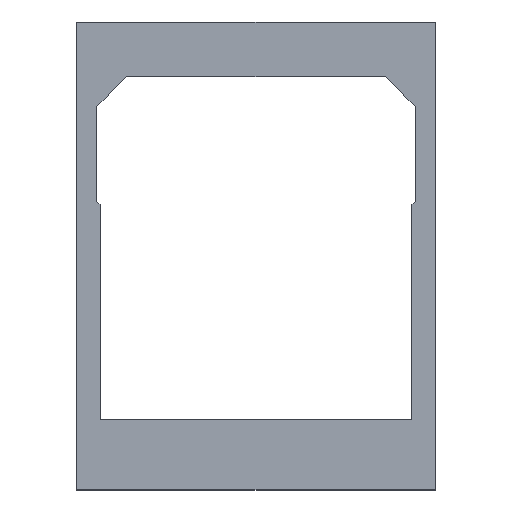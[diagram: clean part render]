
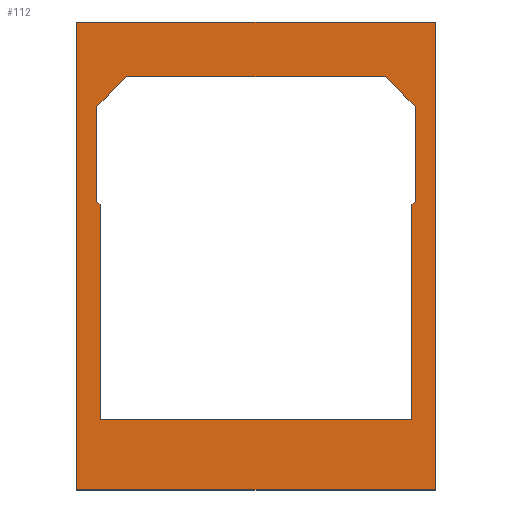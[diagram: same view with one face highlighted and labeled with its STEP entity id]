
A CAD part, top view. The second image highlights one B-rep face of the part: STEP entity #112.
In plain terms, the highlighted planar face has unit normal (0, 0, 1).
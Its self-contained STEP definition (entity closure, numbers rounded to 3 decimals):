
#112=ADVANCED_FACE('',(#226,#317),#176,.F.);
#176=PLANE('',#1246);
#226=FACE_OUTER_BOUND('',#339,.T.);
#317=FACE_BOUND('',#340,.T.);
#339=EDGE_LOOP('',(#462,#463,#464,#465));
#340=EDGE_LOOP('',(#466,#467,#468,#469,#470,#471,#472,#473,#474,#475));
#462=ORIENTED_EDGE('',*,*,#874,.T.);
#463=ORIENTED_EDGE('',*,*,#875,.T.);
#464=ORIENTED_EDGE('',*,*,#876,.T.);
#465=ORIENTED_EDGE('',*,*,#877,.T.);
#466=ORIENTED_EDGE('',*,*,#878,.T.);
#467=ORIENTED_EDGE('',*,*,#879,.T.);
#468=ORIENTED_EDGE('',*,*,#880,.F.);
#469=ORIENTED_EDGE('',*,*,#881,.F.);
#470=ORIENTED_EDGE('',*,*,#882,.T.);
#471=ORIENTED_EDGE('',*,*,#883,.T.);
#472=ORIENTED_EDGE('',*,*,#884,.F.);
#473=ORIENTED_EDGE('',*,*,#885,.T.);
#474=ORIENTED_EDGE('',*,*,#886,.F.);
#475=ORIENTED_EDGE('',*,*,#887,.T.);
#768=VERTEX_POINT('',#1723);
#769=VERTEX_POINT('',#1724);
#770=VERTEX_POINT('',#1726);
#771=VERTEX_POINT('',#1728);
#772=VERTEX_POINT('',#1731);
#773=VERTEX_POINT('',#1732);
#774=VERTEX_POINT('',#1734);
#775=VERTEX_POINT('',#1736);
#776=VERTEX_POINT('',#1738);
#777=VERTEX_POINT('',#1740);
#778=VERTEX_POINT('',#1742);
#779=VERTEX_POINT('',#1744);
#780=VERTEX_POINT('',#1746);
#781=VERTEX_POINT('',#1748);
#874=EDGE_CURVE('',#768,#769,#1017,.T.);
#875=EDGE_CURVE('',#769,#770,#1018,.T.);
#876=EDGE_CURVE('',#770,#771,#1019,.T.);
#877=EDGE_CURVE('',#771,#768,#1020,.T.);
#878=EDGE_CURVE('',#772,#773,#1021,.T.);
#879=EDGE_CURVE('',#773,#774,#1022,.T.);
#880=EDGE_CURVE('',#775,#774,#1023,.T.);
#881=EDGE_CURVE('',#776,#775,#1024,.T.);
#882=EDGE_CURVE('',#776,#777,#1025,.T.);
#883=EDGE_CURVE('',#777,#778,#1026,.T.);
#884=EDGE_CURVE('',#779,#778,#1027,.T.);
#885=EDGE_CURVE('',#779,#780,#1028,.T.);
#886=EDGE_CURVE('',#781,#780,#1029,.T.);
#887=EDGE_CURVE('',#781,#772,#1030,.T.);
#1017=LINE('',#1722,#1146);
#1018=LINE('',#1725,#1147);
#1019=LINE('',#1727,#1148);
#1020=LINE('',#1729,#1149);
#1021=LINE('',#1730,#1150);
#1022=LINE('',#1733,#1151);
#1023=LINE('',#1735,#1152);
#1024=LINE('',#1737,#1153);
#1025=LINE('',#1739,#1154);
#1026=LINE('',#1741,#1155);
#1027=LINE('',#1743,#1156);
#1028=LINE('',#1745,#1157);
#1029=LINE('',#1747,#1158);
#1030=LINE('',#1749,#1159);
#1146=VECTOR('',#1384,1.);
#1147=VECTOR('',#1385,1.);
#1148=VECTOR('',#1386,1.);
#1149=VECTOR('',#1387,1.);
#1150=VECTOR('',#1388,1.);
#1151=VECTOR('',#1389,1.);
#1152=VECTOR('',#1390,1.);
#1153=VECTOR('',#1391,1.);
#1154=VECTOR('',#1392,1.);
#1155=VECTOR('',#1393,1.);
#1156=VECTOR('',#1394,1.);
#1157=VECTOR('',#1395,1.);
#1158=VECTOR('',#1396,1.);
#1159=VECTOR('',#1397,1.);
#1246=AXIS2_PLACEMENT_3D('',#1750,#1398,#1399);
#1384=DIRECTION('',(0.,-1.,0.));
#1385=DIRECTION('',(1.,0.,0.));
#1386=DIRECTION('',(0.,1.,0.));
#1387=DIRECTION('',(-1.,0.,0.));
#1388=DIRECTION('',(0.,-1.,0.));
#1389=DIRECTION('',(-0.707,-0.707,0.));
#1390=DIRECTION('',(0.,1.,0.));
#1391=DIRECTION('',(1.,0.,0.));
#1392=DIRECTION('',(0.,1.,0.));
#1393=DIRECTION('',(-0.707,0.707,0.));
#1394=DIRECTION('',(0.,-1.,0.));
#1395=DIRECTION('',(0.707,0.707,0.));
#1396=DIRECTION('',(-1.,0.,0.));
#1397=DIRECTION('',(0.707,-0.707,0.));
#1398=DIRECTION('',(0.,0.,-1.));
#1399=DIRECTION('',(0.,1.,0.));
#1722=CARTESIAN_POINT('',(-115.,150.,2.));
#1723=CARTESIAN_POINT('',(-115.,150.,2.));
#1724=CARTESIAN_POINT('',(-115.,-150.,2.));
#1725=CARTESIAN_POINT('',(-115.,-150.,2.));
#1726=CARTESIAN_POINT('',(115.,-150.,2.));
#1727=CARTESIAN_POINT('',(115.,-150.,2.));
#1728=CARTESIAN_POINT('',(115.,150.,2.));
#1729=CARTESIAN_POINT('',(115.,150.,2.));
#1730=CARTESIAN_POINT('',(102.,65.,2.));
#1731=CARTESIAN_POINT('',(102.,96.,2.));
#1732=CARTESIAN_POINT('',(102.,35.,2.));
#1733=CARTESIAN_POINT('',(100.,33.,2.));
#1734=CARTESIAN_POINT('',(100.,33.,2.));
#1735=CARTESIAN_POINT('',(100.,-105.,2.));
#1736=CARTESIAN_POINT('',(100.,-105.,2.));
#1737=CARTESIAN_POINT('',(40.,-105.,2.));
#1738=CARTESIAN_POINT('',(-100.,-105.,2.));
#1739=CARTESIAN_POINT('',(-100.,32.5,2.));
#1740=CARTESIAN_POINT('',(-100.,33.,2.));
#1741=CARTESIAN_POINT('',(-102.,35.,2.));
#1742=CARTESIAN_POINT('',(-102.,35.,2.));
#1743=CARTESIAN_POINT('',(-102.,65.,2.));
#1744=CARTESIAN_POINT('',(-102.,96.,2.));
#1745=CARTESIAN_POINT('',(-81.5,116.5,2.));
#1746=CARTESIAN_POINT('',(-83.,115.,2.));
#1747=CARTESIAN_POINT('',(100.,115.,2.));
#1748=CARTESIAN_POINT('',(83.,115.,2.));
#1749=CARTESIAN_POINT('',(-33.5,231.5,2.));
#1750=CARTESIAN_POINT('',(-115.,150.,2.));
